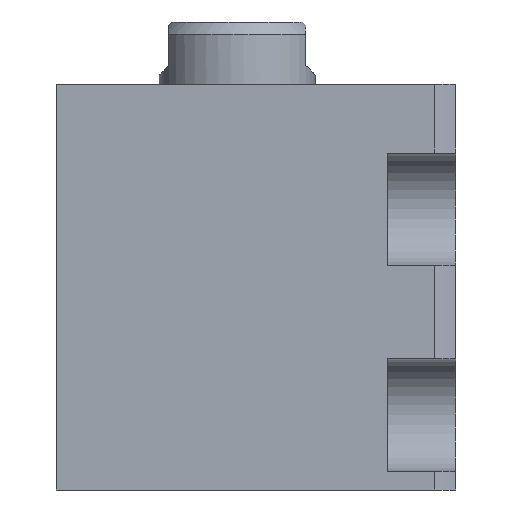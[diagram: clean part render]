
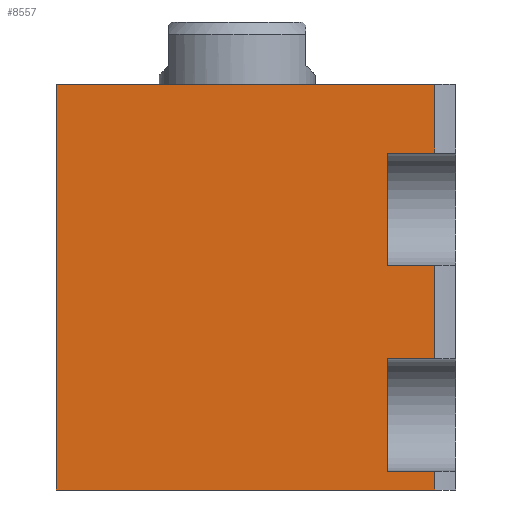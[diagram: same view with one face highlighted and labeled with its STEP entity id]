
A CAD part, left-side view. The second image highlights one B-rep face of the part: STEP entity #8557.
In plain terms, the highlighted planar face has unit normal (-1, 0, 0).
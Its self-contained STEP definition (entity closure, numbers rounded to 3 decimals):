
#88 = VECTOR ( 'NONE', #5199, 1000. ) ;
#127 = VERTEX_POINT ( 'NONE', #6594 ) ;
#201 = CARTESIAN_POINT ( 'NONE',  ( -40., -11.507, 65. ) ) ;
#242 = VECTOR ( 'NONE', #9290, 1000. ) ;
#359 = ORIENTED_EDGE ( 'NONE', *, *, #9346, .F. ) ;
#418 = ORIENTED_EDGE ( 'NONE', *, *, #751, .F. ) ;
#480 = LINE ( 'NONE', #5652, #718 ) ;
#562 = EDGE_LOOP ( 'NONE', ( #5533, #6270, #958, #7862, #359, #8082, #418, #4342, #1529, #2156, #8588, #3364 ) ) ;
#685 = CARTESIAN_POINT ( 'NONE',  ( -40., -64.507, 54. ) ) ;
#718 = VECTOR ( 'NONE', #4108, 1000. ) ;
#751 = EDGE_CURVE ( 'NONE', #1482, #5121, #5445, .T. ) ;
#792 = CARTESIAN_POINT ( 'NONE',  ( -40., -72.145, 65. ) ) ;
#820 = CARTESIAN_POINT ( 'NONE',  ( -40., -64.507, 21. ) ) ;
#958 = ORIENTED_EDGE ( 'NONE', *, *, #8694, .T. ) ;
#965 = DIRECTION ( 'NONE',  ( 0., -1., 0. ) ) ;
#1058 = VECTOR ( 'NONE', #6160, 1000. ) ;
#1070 = EDGE_CURVE ( 'NONE', #1482, #4912, #480, .T. ) ;
#1266 = VECTOR ( 'NONE', #5682, 1000. ) ;
#1406 = VECTOR ( 'NONE', #4409, 1000. ) ;
#1425 = VECTOR ( 'NONE', #3050, 1000. ) ;
#1438 = LINE ( 'NONE', #2418, #9228 ) ;
#1482 = VERTEX_POINT ( 'NONE', #820 ) ;
#1529 = ORIENTED_EDGE ( 'NONE', *, *, #7242, .F. ) ;
#1738 = PLANE ( 'NONE',  #6593 ) ;
#2031 = EDGE_CURVE ( 'NONE', #5121, #6265, #3179, .T. ) ;
#2033 = VERTEX_POINT ( 'NONE', #3168 ) ;
#2057 = VERTEX_POINT ( 'NONE', #2381 ) ;
#2156 = ORIENTED_EDGE ( 'NONE', *, *, #5952, .F. ) ;
#2381 = CARTESIAN_POINT ( 'NONE',  ( -40., -11.507, 0. ) ) ;
#2416 = VERTEX_POINT ( 'NONE', #7706 ) ;
#2418 = CARTESIAN_POINT ( 'NONE',  ( -40., -72.145, -235. ) ) ;
#2453 = LINE ( 'NONE', #2474, #242 ) ;
#2474 = CARTESIAN_POINT ( 'NONE',  ( -40., -72.145, -235. ) ) ;
#3050 = DIRECTION ( 'NONE',  ( 0., 0., -1. ) ) ;
#3168 = CARTESIAN_POINT ( 'NONE',  ( -40., -72.145, 54. ) ) ;
#3179 = LINE ( 'NONE', #8439, #6732 ) ;
#3260 = DIRECTION ( 'NONE',  ( 1., 0., 0. ) ) ;
#3265 = LINE ( 'NONE', #4905, #1266 ) ;
#3364 = ORIENTED_EDGE ( 'NONE', *, *, #7077, .T. ) ;
#3403 = LINE ( 'NONE', #8937, #1406 ) ;
#3439 = VECTOR ( 'NONE', #965, 1000. ) ;
#3654 = CARTESIAN_POINT ( 'NONE',  ( -40., -72.145, 3. ) ) ;
#3925 = DIRECTION ( 'NONE',  ( 0., -1., 0. ) ) ;
#4051 = CARTESIAN_POINT ( 'NONE',  ( -40., -72.145, 21. ) ) ;
#4108 = DIRECTION ( 'NONE',  ( 0., -1., 0. ) ) ;
#4138 = LINE ( 'NONE', #8468, #3439 ) ;
#4342 = ORIENTED_EDGE ( 'NONE', *, *, #1070, .T. ) ;
#4409 = DIRECTION ( 'NONE',  ( 0., 0., -1. ) ) ;
#4510 = DIRECTION ( 'NONE',  ( 0., 0., -1. ) ) ;
#4688 = VECTOR ( 'NONE', #4510, 1000. ) ;
#4712 = DIRECTION ( 'NONE',  ( 0., 0., -1. ) ) ;
#4767 = CARTESIAN_POINT ( 'NONE',  ( -40., -72.145, 0. ) ) ;
#4905 = CARTESIAN_POINT ( 'NONE',  ( -40., -11.507, 65. ) ) ;
#4912 = VERTEX_POINT ( 'NONE', #4051 ) ;
#5121 = VERTEX_POINT ( 'NONE', #9301 ) ;
#5199 = DIRECTION ( 'NONE',  ( 0., -1., 0. ) ) ;
#5394 = CARTESIAN_POINT ( 'NONE',  ( -40., -11.507, 0. ) ) ;
#5445 = LINE ( 'NONE', #9094, #1425 ) ;
#5533 = ORIENTED_EDGE ( 'NONE', *, *, #5939, .F. ) ;
#5652 = CARTESIAN_POINT ( 'NONE',  ( -40., -64.507, 21. ) ) ;
#5682 = DIRECTION ( 'NONE',  ( 0., 0., -1. ) ) ;
#5729 = VERTEX_POINT ( 'NONE', #792 ) ;
#5888 = VERTEX_POINT ( 'NONE', #7714 ) ;
#5939 = EDGE_CURVE ( 'NONE', #5729, #2033, #1438, .T. ) ;
#5952 = EDGE_CURVE ( 'NONE', #6771, #5888, #4138, .T. ) ;
#6123 = LINE ( 'NONE', #685, #88 ) ;
#6160 = DIRECTION ( 'NONE',  ( 0., -1., 0. ) ) ;
#6253 = EDGE_CURVE ( 'NONE', #127, #6771, #3403, .T. ) ;
#6265 = VERTEX_POINT ( 'NONE', #3654 ) ;
#6270 = ORIENTED_EDGE ( 'NONE', *, *, #7750, .F. ) ;
#6336 = CARTESIAN_POINT ( 'NONE',  ( -40., -64.507, 36. ) ) ;
#6567 = CARTESIAN_POINT ( 'NONE',  ( -40., -11.507, 65. ) ) ;
#6593 = AXIS2_PLACEMENT_3D ( 'NONE', #201, #3260, #8533 ) ;
#6594 = CARTESIAN_POINT ( 'NONE',  ( -40., -64.507, 54. ) ) ;
#6604 = DIRECTION ( 'NONE',  ( 0., -1., 0. ) ) ;
#6732 = VECTOR ( 'NONE', #3925, 1000. ) ;
#6771 = VERTEX_POINT ( 'NONE', #6336 ) ;
#7059 = VECTOR ( 'NONE', #6604, 1000. ) ;
#7077 = EDGE_CURVE ( 'NONE', #127, #2033, #6123, .T. ) ;
#7242 = EDGE_CURVE ( 'NONE', #5888, #4912, #8462, .T. ) ;
#7321 = LINE ( 'NONE', #5394, #1058 ) ;
#7706 = CARTESIAN_POINT ( 'NONE',  ( -40., -11.507, 65. ) ) ;
#7714 = CARTESIAN_POINT ( 'NONE',  ( -40., -72.145, 36. ) ) ;
#7750 = EDGE_CURVE ( 'NONE', #2416, #5729, #9295, .T. ) ;
#7862 = ORIENTED_EDGE ( 'NONE', *, *, #9536, .T. ) ;
#8082 = ORIENTED_EDGE ( 'NONE', *, *, #2031, .F. ) ;
#8439 = CARTESIAN_POINT ( 'NONE',  ( -40., -64.507, 3. ) ) ;
#8462 = LINE ( 'NONE', #9031, #4688 ) ;
#8468 = CARTESIAN_POINT ( 'NONE',  ( -40., -64.507, 36. ) ) ;
#8533 = DIRECTION ( 'NONE',  ( 0., 1., 0. ) ) ;
#8557 = ADVANCED_FACE ( 'NONE', ( #9525 ), #1738, .F. ) ;
#8588 = ORIENTED_EDGE ( 'NONE', *, *, #6253, .F. ) ;
#8694 = EDGE_CURVE ( 'NONE', #2416, #2057, #3265, .T. ) ;
#8937 = CARTESIAN_POINT ( 'NONE',  ( -40., -64.507, 54. ) ) ;
#9031 = CARTESIAN_POINT ( 'NONE',  ( -40., -72.145, -235. ) ) ;
#9094 = CARTESIAN_POINT ( 'NONE',  ( -40., -64.507, 21. ) ) ;
#9228 = VECTOR ( 'NONE', #4712, 1000. ) ;
#9290 = DIRECTION ( 'NONE',  ( 0., 0., -1. ) ) ;
#9295 = LINE ( 'NONE', #6567, #7059 ) ;
#9301 = CARTESIAN_POINT ( 'NONE',  ( -40., -64.507, 3. ) ) ;
#9346 = EDGE_CURVE ( 'NONE', #6265, #9381, #2453, .T. ) ;
#9381 = VERTEX_POINT ( 'NONE', #4767 ) ;
#9525 = FACE_OUTER_BOUND ( 'NONE', #562, .T. ) ;
#9536 = EDGE_CURVE ( 'NONE', #2057, #9381, #7321, .T. ) ;
